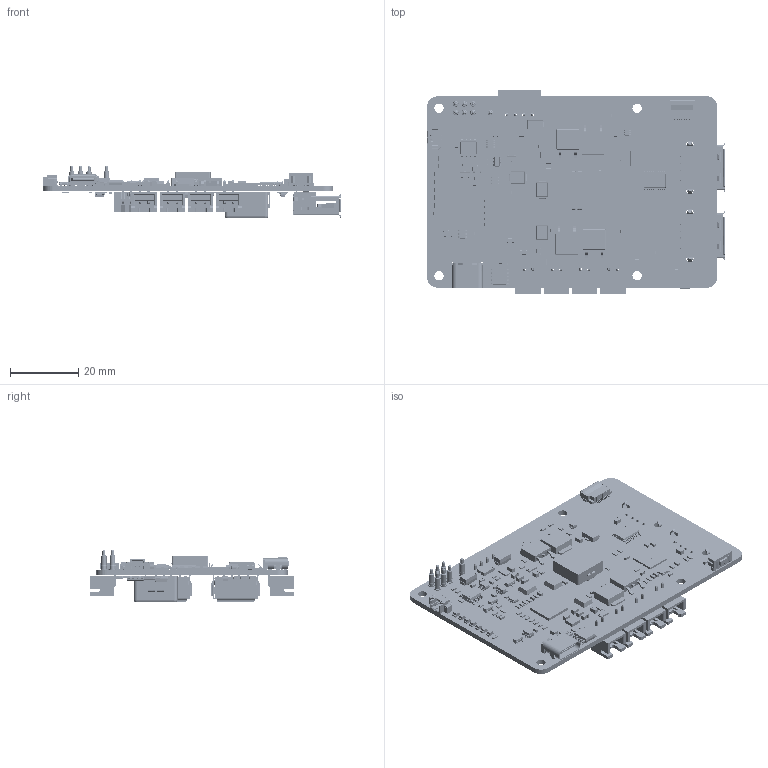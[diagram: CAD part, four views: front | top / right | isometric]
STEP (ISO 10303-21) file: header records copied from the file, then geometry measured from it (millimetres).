
FILE_DESCRIPTION(/* description */ (''),/* implementation_level */ '2;1');
FILE_NAME(/* name */ 'UPSv6(1)',/* time_stamp */ '2026-01-08T16:10:02+08:00',/* author */ (''),/* organization */ (''),/* preprocessor_version */ 'ST-DEVELOPER v16.5',/* originating_system */ '',/* authorisation */ '');
FILE_SCHEMA (('CONFIG_CONTROL_DESIGN'));
Products named in the file (73): Document; UPSv6_PCB; 图块 01; C_0805_2012Metric6; C_0805_2012Metric; R_0603_1608Metric12; R_0603_1608Metric; SOT-23-5; SOT_23_5; R_1210_3225Metric8; R_1210_3225Metric; SB1045L; EasyEDA PCB Model~s1wS; C_0603_1608Metric13; C_0603_1608Metric; R_1206_3216Metric10; R_1206_3216Metric; R_0805_2012Metric7; R_0805_2012Metric; SOT-23; SOT_23; 2x2.54XH; EasyEDA PCB Model~eUOh; 4x2.54XH; EasyEDA PCB Model~eDqV; MOS; EasyEDA PCB Model~Y6iI; SOIC-8_3.9x4.9mm_P1.27mm; SOIC_8_39x49mm_P127mm; USB; EasyEDA PCB Model~opJy; LM25085; EasyEDA PCB Model~EFoc; TSSOP-20_4.4x6.5mm_P0.65mm; TSSOP_20_44x65mm_P065mm; TO-252-2L-3P_L6.6-W6.1-H2.3-LS10.1-P4.69; TO-252-2L-3P_L6.6-W6.1-H2.3-LS10.1-P4.6; D_SMA1; D_SMA; Fuse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
Assembly tree (204 placements, depth 3):
  Document
    UPSv6_PCB
      图块 01
    C_0805_2012Metric6  x15
      C_0805_2012Metric
    R_0603_1608Metric12  x56
      R_0603_1608Metric
    SOT-23-5  x2
      SOT_23_5
    R_1210_3225Metric8  x4
      R_1210_3225Metric
    SB1045L
      EasyEDA PCB Model~s1wS
    C_0603_1608Metric13  x31
      C_0603_1608Metric
    R_1206_3216Metric10  x4
      R_1206_3216Metric
    R_0805_2012Metric7  x5
      R_0805_2012Metric
    SOT-23  x5
      SOT_23
    2x2.54XH  x4
      EasyEDA PCB Model~eUOh
    4x2.54XH
      EasyEDA PCB Model~eDqV
    MOS
      EasyEDA PCB Model~Y6iI
    SOIC-8_3.9x4.9mm_P1.27mm  x2
      SOIC_8_39x49mm_P127mm
    USB  x2
      EasyEDA PCB Model~opJy
    LM25085
      EasyEDA PCB Model~EFoc
    TSSOP-20_4.4x6.5mm_P0.65mm
      TSSOP_20_44x65mm_P065mm
    TO-252-2L-3P_L6.6-W6.1-H2.3-LS10.1-P4.69  x4
      TO-252-2L-3P_L6.6-W6.1-H2.3-LS10.1-P4.6
    D_SMA1  x2
      D_SMA
    Fuse
      EasyEDA PCB Model~WOUe
    BTN
      EasyEDA PCB Model~2gmM
    PQFN-8_L3.0-W3.0-H1.0-P0.672
      PQFN-8_L3.0-W3.0-H1.0-P0.67
    LED_0805_2012Metric3  x7
      LED_0805_2012Metric
    SOT-23-8
      SOT_23_8
    SOT-23-6  x2
      SOT_23_6
    SMB_L4.3-W3.6-LS5.4-BI11  x3
      SMB_L4.3-W3.6-LS5.4-BI
    XH_2025-06-04
      PCBModel
    TYPEC
      EasyEDA PCB Model~02dA
    SOT-89-3
      CQ assembly
    CH224K
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Bounding box: 87.24 x 59.71 x 15.41 mm (x, y, z)
Volume: 12828.8 mm3; surface area: 22601.9 mm2
Topology: 256 solids, 256 shells, 18342 faces, 48952 edges, 31800 vertices
Faces by surface type: plane 11757, bspline 3311, cylinder 3274
Entity records: 377216 total; most frequent: CARTESIAN_POINT 151890, ORIENTED_EDGE 59028, EDGE_CURVE 29514, B_SPLINE_CURVE_WITH_KNOTS 25305, VERTEX_POINT 19232, EDGE_LOOP 11746, ADVANCED_FACE 10983, FACE_OUTER_BOUND 10983
